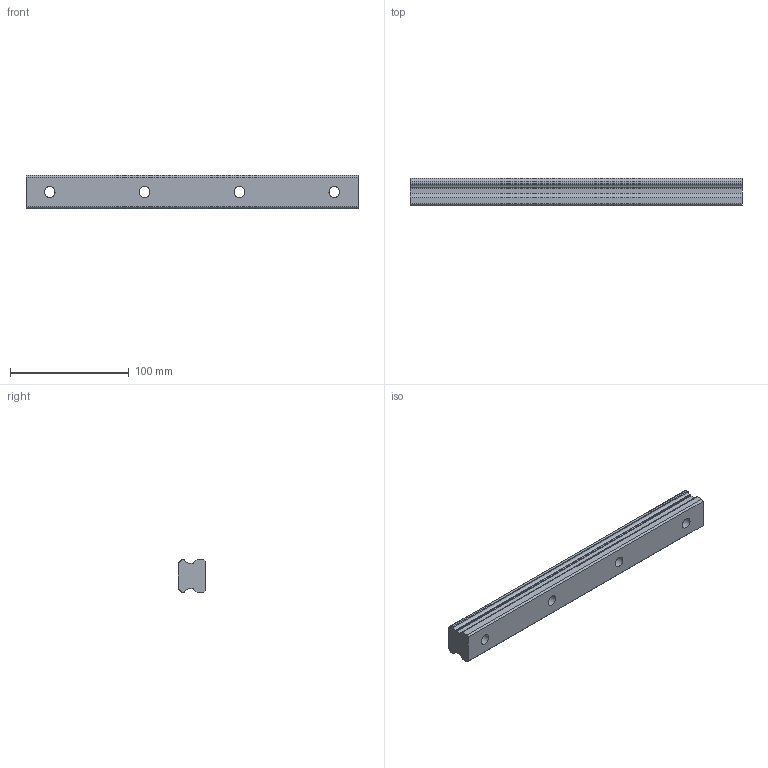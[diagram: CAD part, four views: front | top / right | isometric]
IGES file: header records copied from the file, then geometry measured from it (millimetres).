
Start section: Data from Parasolid IGES Translator 26.0.171, Copyright(c) 2006 Siemens PLM Software. All Rights Reserved.
Global section: file name: SHS30-280L(GK) RAIL(20).igs; native system: By Siemens PLM Incorporated; preprocessor: XPlus GENERIC/IGES 26.0.171; author: Noname; organization: Noname; date: 20240514.034209; units: millimetre
Bounding box: 280 x 23 x 28 mm (x, y, z)
Surface area: 32834.1 mm2 (no closed solid volume)
Topology: 0 solids, 0 shells, 49 faces, 258 edges, 242 vertices
Faces by surface type: revolution 29, extrusion 20
